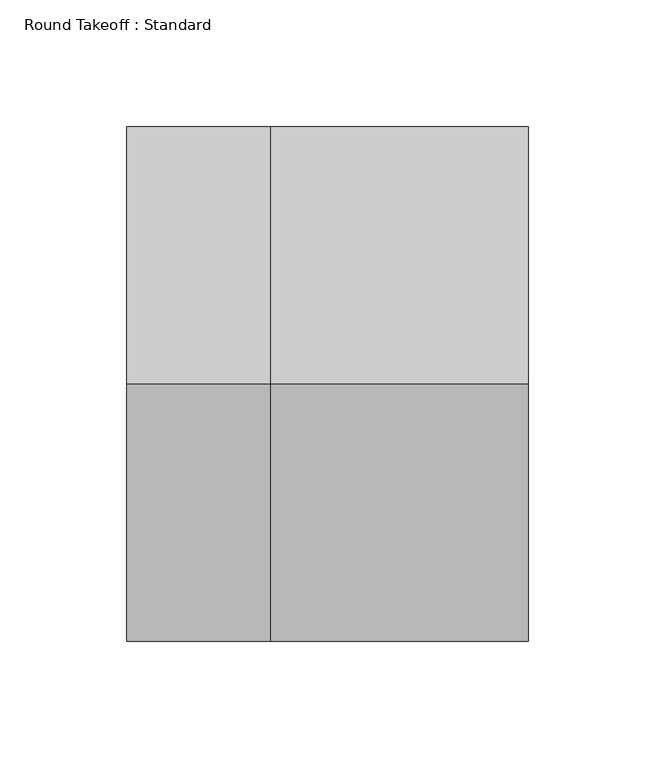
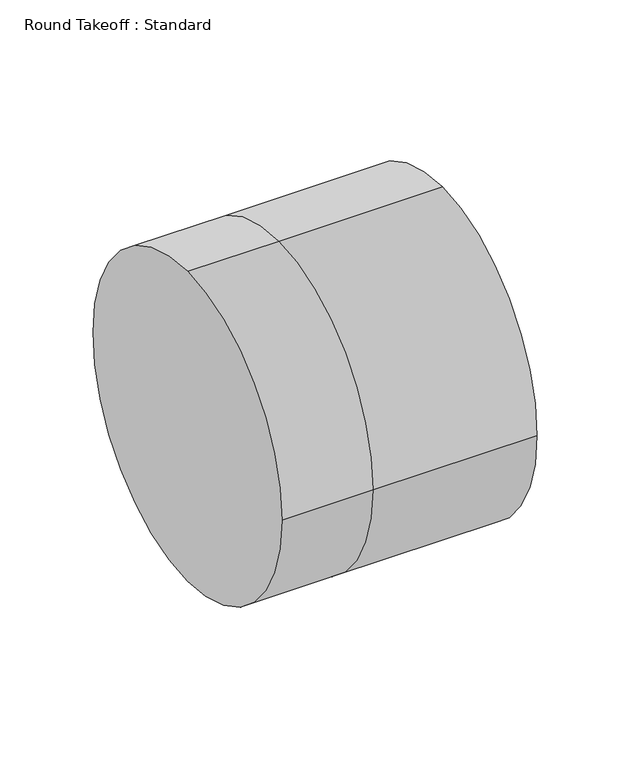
"""IFC4 building model written with IfcOpenShell, lengths in millimetres: duct fitting geometry, Round Takeoff : Standard."""

from ifc_helpers import new_model, si_unit, frame, origin, place, context, project, spatial, circle_curve, source, transform, mapped, element, save
from ifc_brep_helpers import plane_surface, cylinder_surface, advanced_brep


def round_takeoff_standard_ca4b4131(model_context):
    return source(origin(), model_context, "Body", "AdvancedBrep", [
        advanced_brep(
        [(101.6, 0.0, 101.6), (101.6, -101.6, 0.0), (101.6, 0.0, -101.6), (101.6, 101.6, 0.0), (0.0, 101.6, 0.0), (0.0, 0.0, 101.6), (0.0, 0.0, -101.6), (0.0, -101.6, 0.0), (-56.896, 0.0, 101.6), (-56.896, 101.6, 0.0), (-56.896, 0.0, -101.6), (-56.896, -101.6, 0.0)],
        [
            (0, 1, circle_curve(frame((101.6, 0.0, 0.0), z_axis=(1.0, 0.0, 0.0), x_axis=(0.0, 1.0, 0.0)), 101.6)),
            (1, 2, circle_curve(frame((101.6, 0.0, 0.0), z_axis=(1.0, 0.0, 0.0), x_axis=(0.0, 1.0, 0.0)), 101.6)),
            (2, 3, circle_curve(frame((101.6, 0.0, 0.0), z_axis=(1.0, 0.0, 0.0), x_axis=(0.0, 1.0, 0.0)), 101.6)),
            (3, 0, circle_curve(frame((101.6, 0.0, 0.0), z_axis=(1.0, 0.0, 0.0), x_axis=(0.0, 1.0, 0.0)), 101.6)),
            (3, 4),
            (4, 5, circle_curve(frame((0.0, 0.0, 0.0), z_axis=(1.0, 0.0, 0.0), x_axis=(0.0, 1.0, 0.0)), 101.6)),
            (5, 0),
            (2, 6),
            (6, 4, circle_curve(frame((0.0, 0.0, 0.0), z_axis=(1.0, 0.0, 0.0), x_axis=(0.0, 1.0, 0.0)), 101.6)),
            (1, 7),
            (7, 6, circle_curve(frame((0.0, 0.0, 0.0), z_axis=(1.0, 0.0, 0.0), x_axis=(0.0, 1.0, 0.0)), 101.6)),
            (5, 7, circle_curve(frame((0.0, 0.0, 0.0), z_axis=(1.0, 0.0, 0.0), x_axis=(0.0, 1.0, 0.0)), 101.6)),
            (8, 9, circle_curve(frame((-56.896, 0.0, 0.0), z_axis=(-1.0, 0.0, 0.0), x_axis=(0.0, 1.0, 0.0)), 101.6)),
            (9, 10, circle_curve(frame((-56.896, 0.0, 0.0), z_axis=(-1.0, 0.0, 0.0), x_axis=(0.0, 1.0, 0.0)), 101.6)),
            (10, 11, circle_curve(frame((-56.896, 0.0, 0.0), z_axis=(-1.0, 0.0, 0.0), x_axis=(0.0, 1.0, 0.0)), 101.6)),
            (11, 8, circle_curve(frame((-56.896, 0.0, 0.0), z_axis=(-1.0, 0.0, 0.0), x_axis=(0.0, 1.0, 0.0)), 101.6)),
            (8, 5),
            (4, 9),
            (6, 10),
            (7, 11),
        ],
        [
            plane_surface(frame((101.6, 0.0, 0.0), z_axis=(1.0, 0.0, 0.0), x_axis=(0.0, 0.0, 1.0))),
            cylinder_surface(frame((0.0, 0.0, 0.0), z_axis=(-1.0, 0.0, 0.0), x_axis=(0.0, 1.0, 0.0)), 101.6),
            plane_surface(frame((-56.896, 0.0, 0.0), z_axis=(-1.0, 0.0, 0.0), x_axis=(0.0, 0.0, 1.0))),
            cylinder_surface(frame((-56.896, 0.0, 0.0), z_axis=(-1.0, 0.0, 0.0), x_axis=(0.0, 1.0, 0.0)), 101.6),
        ],
        [
            (0, [[1, 2, 3, 4]]),
            (1, [[-4, 5, 6, 7]]),
            (1, [[-3, 8, 9, -5]]),
            (1, [[-2, 10, 11, -8]]),
            (1, [[-1, -7, 12, -10]]),
            (2, [[13, 14, 15, 16]]),
            (3, [[-13, 17, -6, 18]]),
            (3, [[-14, -18, -9, 19]]),
            (3, [[-15, -19, -11, 20]]),
            (3, [[-16, -20, -12, -17]]),
        ],
    ),
    ])


if __name__ == "__main__":
    model = new_model("IFC4")
    model_context = context("Model", 3, world=origin())
    ifc_project = project(units=[si_unit("LENGTHUNIT", "METRE", prefix="MILLI")], contexts=[model_context])
    site = spatial("IfcSite", under=ifc_project)
    building = spatial("IfcBuilding", under=site)
    placement = place(None, origin())
    round_takeoff_standard_shape = round_takeoff_standard_ca4b4131(model_context)
    element("IfcDuctFitting", 1, ObjectType="Round Takeoff : Standard", at=placement, inside=building, context=model_context, shape_type="MappedRepresentation", body=[
        mapped(round_takeoff_standard_shape, transform((0.0, 0.0, 0.0), x_axis=(1.0, 0.0, 0.0), y_axis=(0.0, 1.0, 0.0), z_axis=(0.0, 0.0, 1.0))),
    ])
    save(model, "model.ifc")
